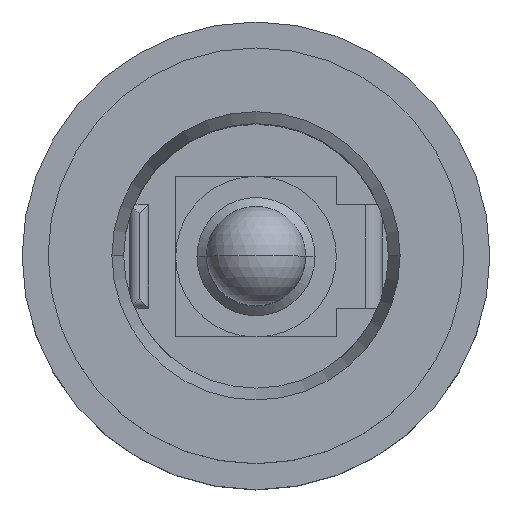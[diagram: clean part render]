
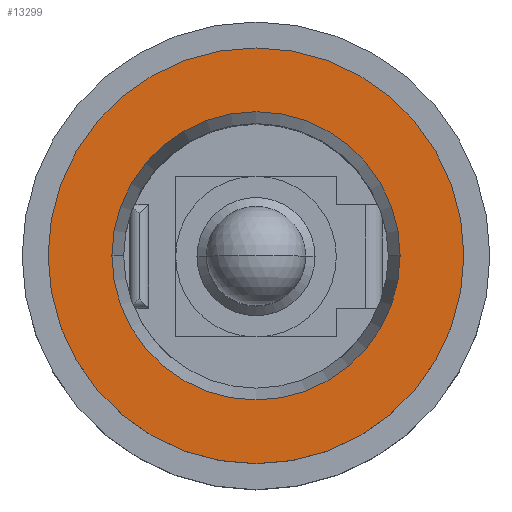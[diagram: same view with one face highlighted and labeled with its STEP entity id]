
A CAD part, top view. The second image highlights one B-rep face of the part: STEP entity #13299.
In plain terms, the highlighted planar face has unit normal (0, 0, 1).
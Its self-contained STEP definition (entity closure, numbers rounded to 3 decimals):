
#1591 = ORIENTED_EDGE ( 'NONE', *, *, #13753, .T. ) ;
#1748 = CARTESIAN_POINT ( 'NONE',  ( 0., 0., 12.1 ) ) ;
#1829 = CARTESIAN_POINT ( 'NONE',  ( 0., 0., 12.1 ) ) ;
#2072 = EDGE_CURVE ( 'NONE', #8922, #10363, #6993, .T. ) ;
#2121 = CIRCLE ( 'NONE', #6785, 3.05 ) ;
#2906 = DIRECTION ( 'NONE',  ( 0., 0., 1. ) ) ;
#3570 = FACE_OUTER_BOUND ( 'NONE', #10239, .T. ) ;
#4429 = EDGE_CURVE ( 'NONE', #12692, #14071, #10251, .T. ) ;
#5120 = ORIENTED_EDGE ( 'NONE', *, *, #4429, .T. ) ;
#5860 = CARTESIAN_POINT ( 'NONE',  ( -4.4, 0., 12.1 ) ) ;
#6785 = AXIS2_PLACEMENT_3D ( 'NONE', #21626, #8122, #19876 ) ;
#6993 = CIRCLE ( 'NONE', #17875, 3.05 ) ;
#7167 = FACE_BOUND ( 'NONE', #13352, .T. ) ;
#7705 = CARTESIAN_POINT ( 'NONE',  ( -3.05, 0., 12.1 ) ) ;
#8122 = DIRECTION ( 'NONE',  ( 0., 0., -1. ) ) ;
#8538 = CIRCLE ( 'NONE', #8911, 4.4 ) ;
#8626 = DIRECTION ( 'NONE',  ( 0., 0., 1. ) ) ;
#8911 = AXIS2_PLACEMENT_3D ( 'NONE', #1829, #11852, #13792 ) ;
#8922 = VERTEX_POINT ( 'NONE', #13603 ) ;
#9337 = CARTESIAN_POINT ( 'NONE',  ( 0., 0., 12.1 ) ) ;
#10239 = EDGE_LOOP ( 'NONE', ( #1591, #5120 ) ) ;
#10251 = CIRCLE ( 'NONE', #13152, 4.4 ) ;
#10363 = VERTEX_POINT ( 'NONE', #7705 ) ;
#10678 = DIRECTION ( 'NONE',  ( 1., 0., 0. ) ) ;
#11852 = DIRECTION ( 'NONE',  ( 0., 0., 1. ) ) ;
#12323 = DIRECTION ( 'NONE',  ( 1., 0., 0. ) ) ;
#12502 = ORIENTED_EDGE ( 'NONE', *, *, #21151, .T. ) ;
#12692 = VERTEX_POINT ( 'NONE', #19602 ) ;
#12706 = DIRECTION ( 'NONE',  ( 0., 0., -1. ) ) ;
#13152 = AXIS2_PLACEMENT_3D ( 'NONE', #1748, #8626, #12323 ) ;
#13299 = ADVANCED_FACE ( 'NONE', ( #7167, #3570 ), #19123, .T. ) ;
#13352 = EDGE_LOOP ( 'NONE', ( #17937, #12502 ) ) ;
#13603 = CARTESIAN_POINT ( 'NONE',  ( 3.05, 0., 12.1 ) ) ;
#13753 = EDGE_CURVE ( 'NONE', #14071, #12692, #8538, .T. ) ;
#13792 = DIRECTION ( 'NONE',  ( 1., 0., 0. ) ) ;
#14071 = VERTEX_POINT ( 'NONE', #5860 ) ;
#16456 = AXIS2_PLACEMENT_3D ( 'NONE', #19348, #2906, #18464 ) ;
#17875 = AXIS2_PLACEMENT_3D ( 'NONE', #9337, #12706, #10678 ) ;
#17937 = ORIENTED_EDGE ( 'NONE', *, *, #2072, .T. ) ;
#18464 = DIRECTION ( 'NONE',  ( 1., 0., 0. ) ) ;
#19123 = PLANE ( 'NONE',  #16456 ) ;
#19348 = CARTESIAN_POINT ( 'NONE',  ( 0., 0., 12.1 ) ) ;
#19602 = CARTESIAN_POINT ( 'NONE',  ( 4.4, 0., 12.1 ) ) ;
#19876 = DIRECTION ( 'NONE',  ( 1., 0., 0. ) ) ;
#21151 = EDGE_CURVE ( 'NONE', #10363, #8922, #2121, .T. ) ;
#21626 = CARTESIAN_POINT ( 'NONE',  ( 0., 0., 12.1 ) ) ;
